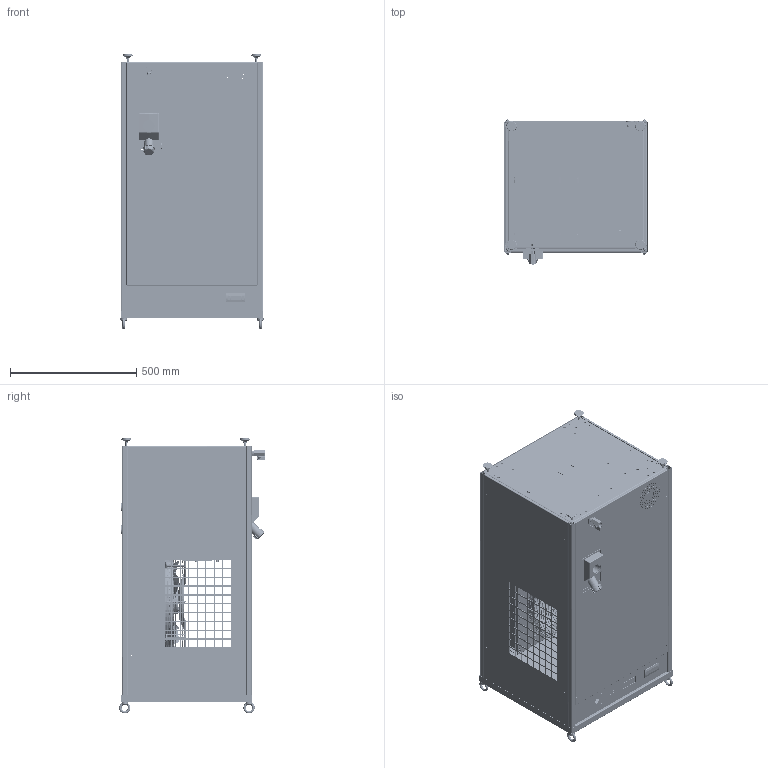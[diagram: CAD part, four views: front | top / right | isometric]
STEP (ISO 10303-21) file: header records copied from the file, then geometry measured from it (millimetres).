
FILE_DESCRIPTION (( 'STEP AP203' ), '1' );
FILE_NAME ('COPIA_ECP2-D_REV_00.STEP', '2026-07-23T09:04:37', ( '' ), ( '' ), 'SwSTEP 2.0', 'SolidWorks 2023', '' );
FILE_SCHEMA (( 'CONFIG_CONTROL_DESIGN' ));
Length unit declared in the file: millimetre
Products named in the file (29): COPIA_VR-2C-00071_000; COPIA_VR-2C-00073_001; COPIA_ZF-DI-00011_000; COPIA_50-2C-00029-30_50-2C-00029 CON PIASTRA EVAP.; COPIA_ZF-BU-00027_000; COPIA_VE-W2-00004; COPIA_CR-1C-00033_000; COPIA_VR-2C-00040_002; COPIA_43-MI-E00004_43-MI-E0004; COPIA_ZP-TA-00006; COPIA_VR-2C-00072_000; COPIA_TA-RG-00041; COPIA_VR-2C-00074_000; COPIA_VA-A5-00001; COPIA_AN-PI-00026_001; COPIA_VR-2C-00076_000; COPIA_FILETTO_RUBINETTO_VA-A5-00001; COPIA_SE-RP-00043; COPIA_ECP2-D_REV_00; COPIA_CR-2C-00051_001; COPIA_CO-CF-00119_000; COPIA_ST-AT-00027_002; COPIA_CR-2C-00049_005; COPIA_TE-EL-00007 - EW_971_230V; COPIA_CR-2C-00057_002; COPIA_VR-2C-00075_000; COPIA_GO-LF-00001; Parte1^COPIA_43-MI-E00004; COPIA_VR-2C-00070_001
Assembly tree (39 placements, depth 4):
  COPIA_ECP2-D_REV_00
    COPIA_43-MI-E00004_43-MI-E0004
      COPIA_50-2C-00029-30_50-2C-00029 CON PIASTRA EVAP.
        COPIA_CR-2C-00049_005
        COPIA_VR-2C-00071_000
        COPIA_VR-2C-00072_000
        COPIA_VR-2C-00073_001
        COPIA_CR-2C-00057_002
        COPIA_CR-1C-00033_000
        COPIA_VR-2C-00070_001
        COPIA_VR-2C-00040_002
        COPIA_VR-2C-00074_000
        COPIA_VR-2C-00075_000
        COPIA_AN-PI-00026_001  x4
        COPIA_CR-2C-00051_001
        COPIA_TA-RG-00041
        COPIA_VR-2C-00076_000
      COPIA_CO-CF-00119_000
      COPIA_VE-W2-00004
      COPIA_ZF-BU-00027_000  x4
      COPIA_GO-LF-00001  x4
      COPIA_ZF-DI-00011_000  x3
    COPIA_SE-RP-00043
    COPIA_ST-AT-00027_002  x2
    COPIA_TE-EL-00007 - EW_971_230V
    COPIA_FILETTO_RUBINETTO_VA-A5-00001
    COPIA_VA-A5-00001
    COPIA_ZP-TA-00006
  Parte1^COPIA_43-MI-E00004
Bounding box: 570 x 578.4 x 1090.7 mm (x, y, z)
Volume: 22086158.3 mm3; surface area: 13056012 mm2
Topology: 223 solids, 223 shells, 9855 faces, 25782 edges, 16401 vertices
Faces by surface type: plane 4686, cylinder 3050, torus 942, cone 621, bspline 506, sphere 50
Entity records: 384966 total; most frequent: CARTESIAN_POINT 141597, ORIENTED_EDGE 50192, DIRECTION 48859, EDGE_CURVE 25096, AXIS2_PLACEMENT_3D 17092, VERTEX_POINT 16016, LINE 14675, VECTOR 14675
